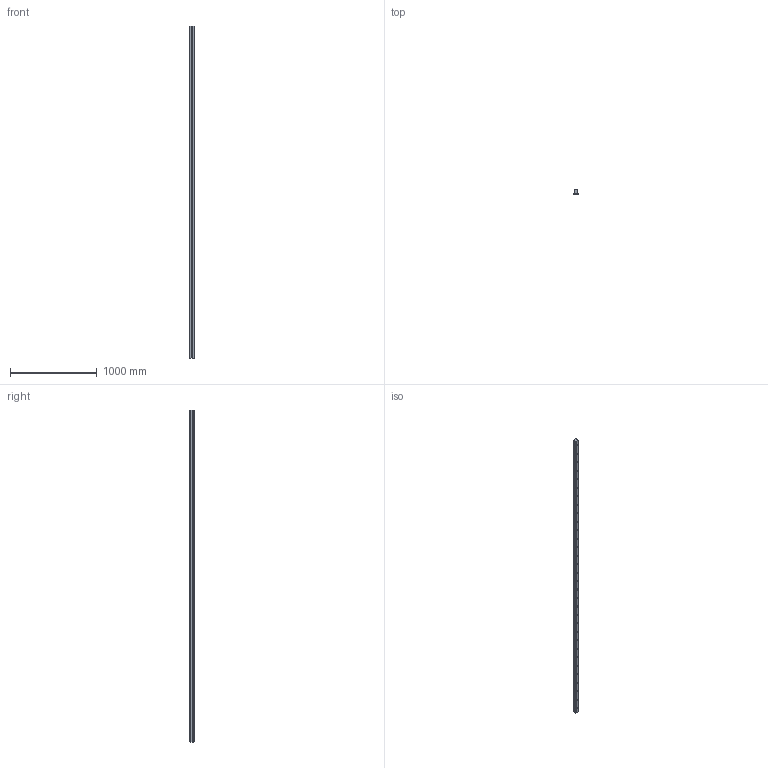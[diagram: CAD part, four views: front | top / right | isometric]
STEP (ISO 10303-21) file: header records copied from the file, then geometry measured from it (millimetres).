
FILE_DESCRIPTION((''),'2;1');
FILE_NAME('KUGELSCHIENE_CS_ASM','2021-10-14T09:56:51',('ac91sw'),(''),'CREO PARAMETRIC BY PTC INC, 2020044','CREO PARAMETRIC BY PTC INC, 2020044','');
FILE_SCHEMA(('AUTOMOTIVE_DESIGN { 1 0 10303 214 1 1 1 1 }'));
Length unit declared in the file: millimetre
Products named in the file (3): KUGELSCHIENE_CS_SKEL; KUGELSCHIENE_CS_RAIL1; KUGELSCHIENE_CS_ASM
Assembly tree (2 placements, depth 2):
  KUGELSCHIENE_CS_ASM
    KUGELSCHIENE_CS_SKEL
    KUGELSCHIENE_CS_RAIL1
Bounding box: 53 x 47.85 x 3836 mm (x, y, z)
Volume: 7637321.6 mm3; surface area: 854996.3 mm2
Topology: 1 solids, 33 shells, 302 faces, 752 edges, 452 vertices
Faces by surface type: cylinder 132, plane 98, cone 72
Entity records: 10345 total; most frequent: DIRECTION 1626, CARTESIAN_POINT 1517, ORIENTED_EDGE 1248, EDGE_CURVE 688, AXIS2_PLACEMENT_3D 645, VERTEX_POINT 452, EDGE_LOOP 366, VECTOR 336
